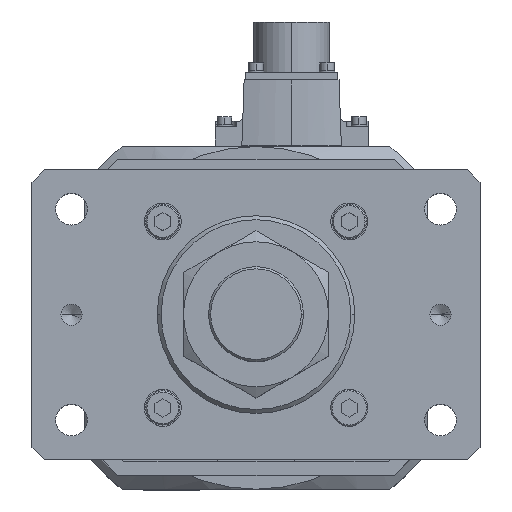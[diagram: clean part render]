
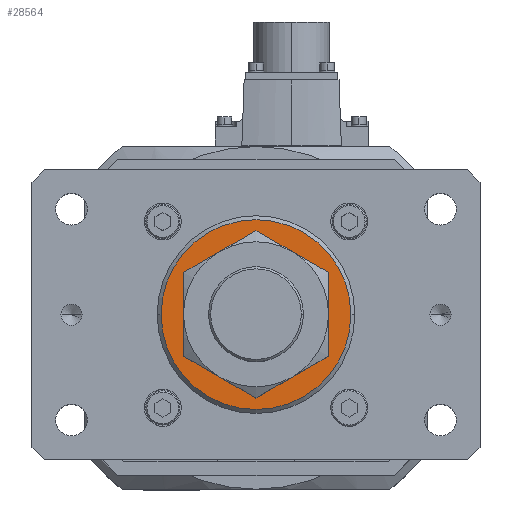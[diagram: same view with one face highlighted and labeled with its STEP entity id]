
A CAD part, top view. The second image highlights one B-rep face of the part: STEP entity #28564.
In plain terms, the highlighted planar face has unit normal (0, 0, 1).
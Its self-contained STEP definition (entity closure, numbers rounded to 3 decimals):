
#1449 = CARTESIAN_POINT ( 'NONE',  ( 0., 0., 446. ) ) ;
#1499 = CIRCLE ( 'NONE', #20300, 36. ) ;
#1862 = VERTEX_POINT ( 'NONE', #22144 ) ;
#1941 = CARTESIAN_POINT ( 'NONE',  ( -36., 0., 446. ) ) ;
#2119 = CIRCLE ( 'NONE', #31689, 36. ) ;
#3210 = CARTESIAN_POINT ( 'NONE',  ( 0., 0., 446. ) ) ;
#4359 = ORIENTED_EDGE ( 'NONE', *, *, #29299, .T. ) ;
#4929 = AXIS2_PLACEMENT_3D ( 'NONE', #13432, #22287, #25184 ) ;
#5961 = EDGE_CURVE ( 'NONE', #34715, #24695, #1499, .T. ) ;
#6343 = AXIS2_PLACEMENT_3D ( 'NONE', #18977, #28008, #36171 ) ;
#6941 = CARTESIAN_POINT ( 'NONE',  ( 36., 0., 446. ) ) ;
#7090 = DIRECTION ( 'NONE',  ( 0., 0., 1. ) ) ;
#7111 = CARTESIAN_POINT ( 'NONE',  ( -23., 0., 446. ) ) ;
#7352 = DIRECTION ( 'NONE',  ( 1., 0., 0. ) ) ;
#9113 = DIRECTION ( 'NONE',  ( 0., 0., 1. ) ) ;
#9138 = DIRECTION ( 'NONE',  ( 1., 0., 0. ) ) ;
#9334 = VERTEX_POINT ( 'NONE', #7111 ) ;
#13348 = FACE_BOUND ( 'NONE', #31464, .T. ) ;
#13432 = CARTESIAN_POINT ( 'NONE',  ( 0., 0., 446. ) ) ;
#16017 = FACE_OUTER_BOUND ( 'NONE', #16588, .T. ) ;
#16377 = PLANE ( 'NONE',  #6343 ) ;
#16588 = EDGE_LOOP ( 'NONE', ( #4359, #17904 ) ) ;
#17904 = ORIENTED_EDGE ( 'NONE', *, *, #5961, .T. ) ;
#18734 = AXIS2_PLACEMENT_3D ( 'NONE', #25352, #20553, #9138 ) ;
#18977 = CARTESIAN_POINT ( 'NONE',  ( 0., 0., 446. ) ) ;
#20300 = AXIS2_PLACEMENT_3D ( 'NONE', #1449, #7090, #7352 ) ;
#20553 = DIRECTION ( 'NONE',  ( 0., 0., -1. ) ) ;
#20966 = EDGE_CURVE ( 'NONE', #1862, #9334, #34582, .T. ) ;
#22144 = CARTESIAN_POINT ( 'NONE',  ( 23., 0., 446. ) ) ;
#22287 = DIRECTION ( 'NONE',  ( 0., 0., -1. ) ) ;
#23176 = DIRECTION ( 'NONE',  ( 1., 0., 0. ) ) ;
#24695 = VERTEX_POINT ( 'NONE', #1941 ) ;
#24798 = CIRCLE ( 'NONE', #18734, 23. ) ;
#25184 = DIRECTION ( 'NONE',  ( 1., 0., 0. ) ) ;
#25352 = CARTESIAN_POINT ( 'NONE',  ( 0., 0., 446. ) ) ;
#28008 = DIRECTION ( 'NONE',  ( 0., 0., 1. ) ) ;
#28564 = ADVANCED_FACE ( 'NONE', ( #13348, #16017 ), #16377, .T. ) ;
#29299 = EDGE_CURVE ( 'NONE', #24695, #34715, #2119, .T. ) ;
#31464 = EDGE_LOOP ( 'NONE', ( #35312, #33628 ) ) ;
#31689 = AXIS2_PLACEMENT_3D ( 'NONE', #3210, #9113, #23176 ) ;
#33628 = ORIENTED_EDGE ( 'NONE', *, *, #35509, .T. ) ;
#34582 = CIRCLE ( 'NONE', #4929, 23. ) ;
#34715 = VERTEX_POINT ( 'NONE', #6941 ) ;
#35312 = ORIENTED_EDGE ( 'NONE', *, *, #20966, .T. ) ;
#35509 = EDGE_CURVE ( 'NONE', #9334, #1862, #24798, .T. ) ;
#36171 = DIRECTION ( 'NONE',  ( 1., 0., 0. ) ) ;
